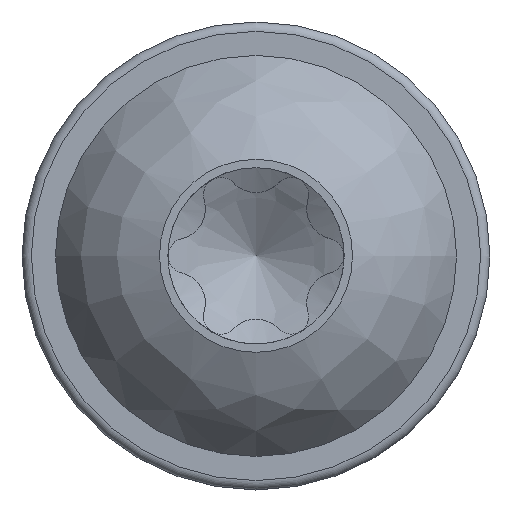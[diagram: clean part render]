
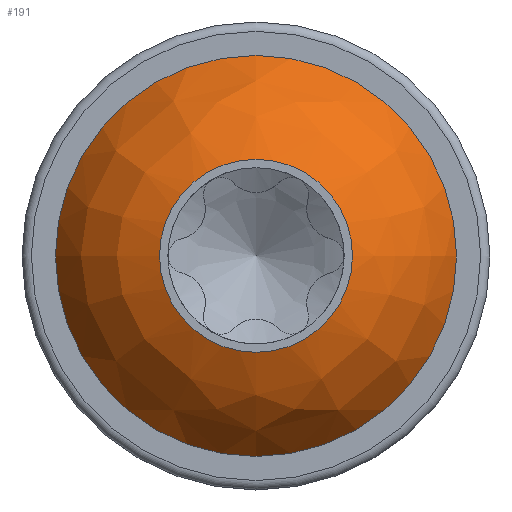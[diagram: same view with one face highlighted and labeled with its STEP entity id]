
A CAD part, top view. The second image highlights one B-rep face of the part: STEP entity #191.
In plain terms, the highlighted free-form (B-spline) face has degree [3, 3] with [4, 7] control points.
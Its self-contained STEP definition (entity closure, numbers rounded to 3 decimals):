
#131=(
BOUNDED_SURFACE()
B_SPLINE_SURFACE(3,3,((#2007,#2008,#2009,#2010,#2011,#2012,#2013),(#2014,
#2015,#2016,#2017,#2018,#2019,#2020),(#2021,#2022,#2023,#2024,#2025,#2026,
#2027),(#2028,#2029,#2030,#2031,#2032,#2033,#2034)),.UNSPECIFIED.,.F.,.T.,
 .F.)
B_SPLINE_SURFACE_WITH_KNOTS((4,4),(1,3,3,3,1),(0.,1.),(-0.5,0.,0.5,1.,1.5),
 .UNSPECIFIED.)
GEOMETRIC_REPRESENTATION_ITEM()
RATIONAL_B_SPLINE_SURFACE(((1.,0.333,0.333,1.,0.333,
0.333,1.),(0.945,0.315,0.315,
0.945,0.315,0.315,0.945),
(0.945,0.315,0.315,0.945,
0.315,0.315,0.945),(1.,0.333,
0.333,1.,0.333,0.333,1.)))
REPRESENTATION_ITEM('')
SURFACE()
);
#166=FACE_BOUND('',#297,.T.);
#167=FACE_BOUND('',#298,.T.);
#191=ADVANCED_FACE('',(#166,#167),#131,.T.);
#297=EDGE_LOOP('',(#410));
#298=EDGE_LOOP('',(#411));
#361=CIRCLE('',#890,5.143);
#362=CIRCLE('',#892,2.475);
#410=ORIENTED_EDGE('',*,*,#722,.F.);
#411=ORIENTED_EDGE('',*,*,#721,.T.);
#638=VERTEX_POINT('',#2003);
#639=VERTEX_POINT('',#2006);
#721=EDGE_CURVE('',#638,#638,#361,.T.);
#722=EDGE_CURVE('',#639,#639,#362,.T.);
#890=AXIS2_PLACEMENT_3D('',#2002,#954,#955);
#892=AXIS2_PLACEMENT_3D('',#2005,#958,#959);
#954=DIRECTION('',(0.,0.,1.));
#955=DIRECTION('',(1.,0.,0.));
#958=DIRECTION('',(0.,0.,1.));
#959=DIRECTION('',(1.,0.,0.));
#2002=CARTESIAN_POINT('',(0.,0.,1.2));
#2003=CARTESIAN_POINT('',(5.143,0.,1.2));
#2005=CARTESIAN_POINT('',(0.,0.,3.6));
#2006=CARTESIAN_POINT('',(2.475,0.,3.6));
#2007=CARTESIAN_POINT('',(2.475,0.,3.6));
#2008=CARTESIAN_POINT('',(2.475,4.95,3.6));
#2009=CARTESIAN_POINT('',(-2.475,4.95,3.6));
#2010=CARTESIAN_POINT('',(-2.475,0.,3.6));
#2011=CARTESIAN_POINT('',(-2.475,-4.95,3.6));
#2012=CARTESIAN_POINT('',(2.475,-4.95,3.6));
#2013=CARTESIAN_POINT('',(2.475,0.,3.6));
#2014=CARTESIAN_POINT('',(3.676,0.,3.199));
#2015=CARTESIAN_POINT('',(3.676,7.352,3.199));
#2016=CARTESIAN_POINT('',(-3.676,7.352,3.199));
#2017=CARTESIAN_POINT('',(-3.676,0.,3.199));
#2018=CARTESIAN_POINT('',(-3.676,-7.352,3.199));
#2019=CARTESIAN_POINT('',(3.676,-7.352,3.199));
#2020=CARTESIAN_POINT('',(3.676,0.,3.199));
#2021=CARTESIAN_POINT('',(4.617,0.,2.352));
#2022=CARTESIAN_POINT('',(4.617,9.234,2.352));
#2023=CARTESIAN_POINT('',(-4.617,9.234,2.352));
#2024=CARTESIAN_POINT('',(-4.617,0.,2.352));
#2025=CARTESIAN_POINT('',(-4.617,-9.234,2.352));
#2026=CARTESIAN_POINT('',(4.617,-9.234,2.352));
#2027=CARTESIAN_POINT('',(4.617,0.,2.352));
#2028=CARTESIAN_POINT('',(5.143,0.,1.2));
#2029=CARTESIAN_POINT('',(5.143,10.286,1.2));
#2030=CARTESIAN_POINT('',(-5.143,10.286,1.2));
#2031=CARTESIAN_POINT('',(-5.143,0.,1.2));
#2032=CARTESIAN_POINT('',(-5.143,-10.286,1.2));
#2033=CARTESIAN_POINT('',(5.143,-10.286,1.2));
#2034=CARTESIAN_POINT('',(5.143,0.,1.2));
